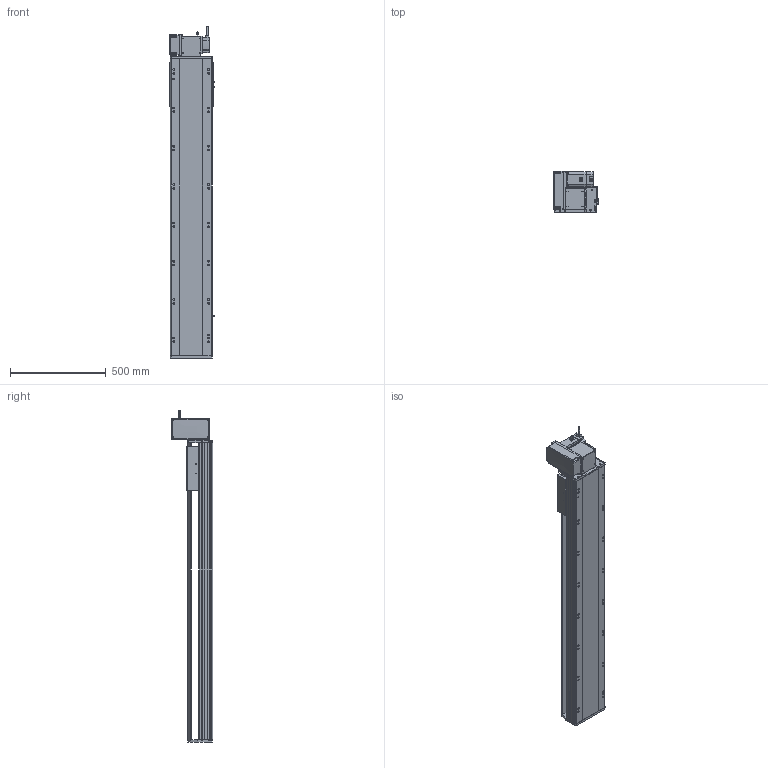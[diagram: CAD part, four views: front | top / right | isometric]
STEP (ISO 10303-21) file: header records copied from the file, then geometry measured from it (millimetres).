
FILE_DESCRIPTION (( 'STEP AP214' ), '1' );
FILE_NAME ('RTB22S-XX-1200-LW-M75-C4.STEP', '2025-12-12T05:56:21', ( '' ), ( '' ), 'SwSTEP 2.0', 'SolidWorks 2018', '' );
FILE_SCHEMA (( 'AUTOMOTIVE_DESIGN' ));
Length unit declared in the file: millimetre
Products named in the file (14): RTB22S-XX-1200-LW-M75-C4; RTB22S-L-011菁釱^RTB22S-XX-XX-LW-M75-C4; 750W萇儂^RTB22S-XX-XX-LW-M75-C4; OMRON EE-SX672 传感器^RTB22S-XX-XX-LW-M75-C4; RTB22S-LW-々湍釱蚾饜^RTB22S-XX-XX-LW-M75-C4; RTB22S-GY-018P^RTB22S-LW-々湍釱蚾饜_RTB22S-XX-XX-LW-M75-C4; RTB22S-GY-008-M75--萇儂啣^RTB22S-LW-々湍釱蚾饜_RTB22S-XX-XX-LW-M75-C4; RTB22S-GY-005P^RTB22S-LW-々湍釱蚾饜_RTB22S-XX-XX-LW-M75-C4; RTB22S-GY-001耜裔^RTB22S-XX-XX-LW-M75-C4; RTB22S-GY-017P^RTB22S-LW-々湍釱蚾饜_RTB22S-XX-XX-LW-M75-C4; RTH22-GY-013外置感应片^RTB22S-XX-XX-LW-M75-C4; RTB22S-L-004賑釱^RTB22S-XX-XX-LW-M75-C4; RTB22S-GY-014--々湍釱^RTB22S-LW-々湍釱蚾饜_RTB22S-XX-XX-LW-M75-C4; RTB22S-GY-007奻裔^RTB22S-XX-XX-LW-M75-C4
Assembly tree (16 placements, depth 3):
  RTB22S-XX-1200-LW-M75-C4
    RTB22S-L-011菁釱^RTB22S-XX-XX-LW-M75-C4
    RTB22S-GY-001耜裔^RTB22S-XX-XX-LW-M75-C4
    750W萇儂^RTB22S-XX-XX-LW-M75-C4
    RTB22S-GY-007奻裔^RTB22S-XX-XX-LW-M75-C4
    RTB22S-L-004賑釱^RTB22S-XX-XX-LW-M75-C4
    RTH22-GY-013外置感应片^RTB22S-XX-XX-LW-M75-C4
    OMRON EE-SX672 传感器^RTB22S-XX-XX-LW-M75-C4  x3
    RTB22S-LW-々湍釱蚾饜^RTB22S-XX-XX-LW-M75-C4
      RTB22S-GY-014--々湍釱^RTB22S-LW-々湍釱蚾饜_RTB22S-XX-XX-LW-M75-C4
      RTB22S-GY-017P^RTB22S-LW-々湍釱蚾饜_RTB22S-XX-XX-LW-M75-C4  x2
      RTB22S-GY-005P^RTB22S-LW-々湍釱蚾饜_RTB22S-XX-XX-LW-M75-C4
      RTB22S-GY-008-M75--萇儂啣^RTB22S-LW-々湍釱蚾饜_RTB22S-XX-XX-LW-M75-C4
      RTB22S-GY-018P^RTB22S-LW-々湍釱蚾饜_RTB22S-XX-XX-LW-M75-C4
Bounding box: 238.5 x 215.5 x 1732.2 mm (x, y, z)
Volume: 23623074.3 mm3; surface area: 2448119.5 mm2
Topology: 15 solids, 15 shells, 1983 faces, 5386 edges, 3452 vertices
Faces by surface type: plane 915, cylinder 622, bspline 296, cone 138, sphere 8, torus 4
Entity records: 52768 total; most frequent: CARTESIAN_POINT 15172, ORIENTED_EDGE 7560, DIRECTION 7274, EDGE_CURVE 3780, AXIS2_PLACEMENT_3D 2566, VERTEX_POINT 2456, VECTOR 2142, LINE 2142
